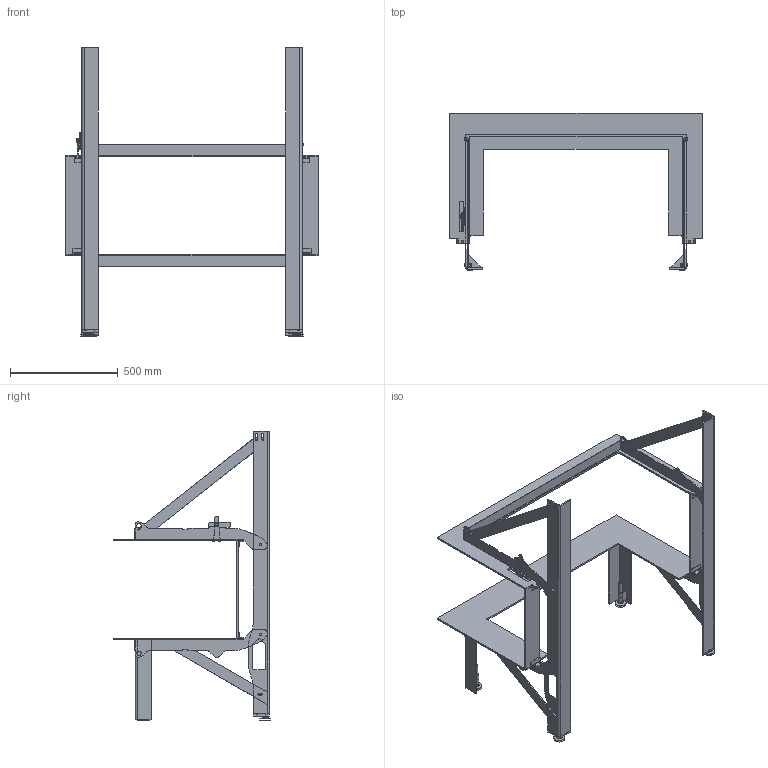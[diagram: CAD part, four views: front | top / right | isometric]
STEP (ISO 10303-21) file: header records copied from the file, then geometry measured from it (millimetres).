
FILE_DESCRIPTION(/* description */ (''),/* implementation_level */ '2;1');
FILE_NAME(/* name */ 'C:\ADSK_DM_WS\CAD_3D\03 Geraete\RIII 45x100x46\Zeichnungen\RIII 45x100x46 Einbaurahmen freistehend CAD Planung defriten 2016-03134 190919.stp',/* time_stamp */ '2019-09-19T11:23:14+02:00',/* author */ ('cpi'),/* organization */ (''),/* preprocessor_version */ 'ST-DEVELOPER v17.2',/* originating_system */ 'Autodesk Inventor 2019',/* authorisation */ '');
FILE_SCHEMA (('AUTOMOTIVE_DESIGN { 1 0 10303 214 3 1 1 }'));
Length unit declared in the file: millimetre
Products named in the file (1): 2019-02763
Bounding box: 1175 x 731.44 x 1343.5 mm (x, y, z)
Volume: 9580762.1 mm3; surface area: 3087115.2 mm2
Topology: 5 solids, 5 shells, 1037 faces, 2943 edges, 1894 vertices
Faces by surface type: plane 557, cylinder 412, cone 68
Full cylindrical faces by diameter (mm): 10 x5, 10.21 x2, 10.4 x1, 10.5 x13, 16 x6, 17 x2, 20 x2, 25 x2, 30 x4
Entity records: 35160 total; most frequent: CARTESIAN_POINT 6589, ORIENTED_EDGE 5886, DIRECTION 5861, EDGE_CURVE 2943, AXIS2_PLACEMENT_3D 2050, VERTEX_POINT 1894, LINE 1761, VECTOR 1761
